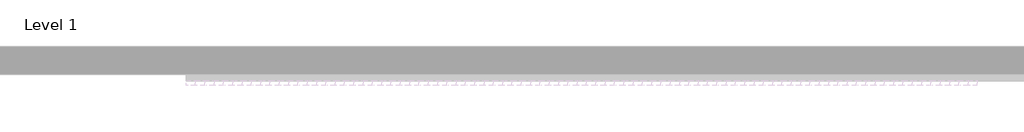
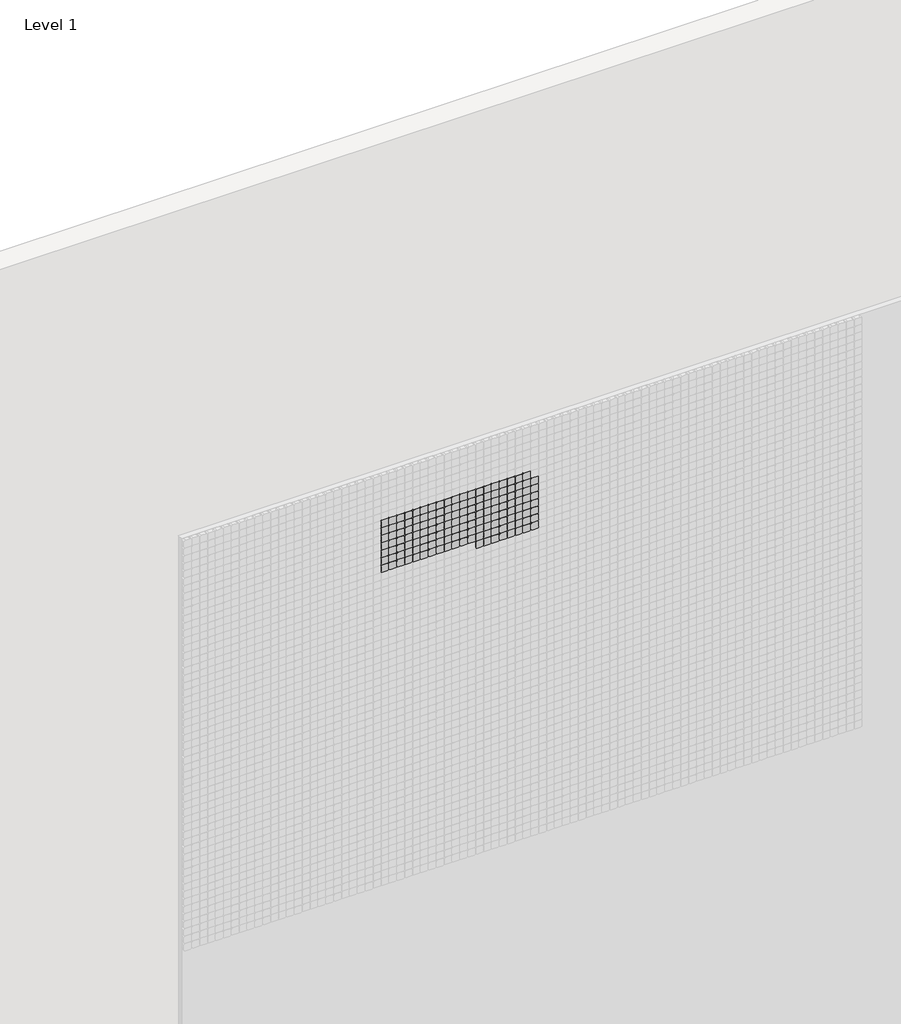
# One storey, part 22 of 71: 147 proxies.
"""IFC4 building model written with IfcOpenShell, lengths in millimetres."""

from ifc_helpers import new_model, si_unit, origin, place, context, project, spatial, transform, mapped, element, save
from components import generic_models_afde289c

model = new_model("IFC4")

# Units and contexts
model_context = context("Model", 3, world=origin())
ifc_project = project(units=[si_unit("LENGTHUNIT", "METRE", prefix="MILLI")], contexts=[model_context])

# Site, building, storey
site = spatial("IfcSite", under=ifc_project)
building = spatial("IfcBuilding", under=site)
storey = spatial("IfcBuildingStorey", under=building, Name="Level 1", Elevation=0.0)

# Proxies
placement = place(None, origin())
generic_models_shape = generic_models_afde289c(model_context)
element("IfcBuildingElementProxy", 1, Name="Pixel_M : Pixel_M", ObjectType="Pixel_M : Pixel_M", at=placement, inside=storey, context=model_context, shape_type="MappedRepresentation", body=[
    mapped(generic_models_shape, transform((6912.4280941, -75.0, 5666.3566215), x_axis=(1.0, 0.0, 0.0), y_axis=(0.0, 0.0, 1.0), z_axis=(0.0, -1.0, 0.0))),
])
element("IfcBuildingElementProxy", 2, Name="Pixel_M : Pixel_M", ObjectType="Pixel_M : Pixel_M", at=placement, inside=storey, context=model_context, shape_type="MappedRepresentation", body=[
    mapped(generic_models_shape, transform((6862.4280941, -75.0, 5666.3566215), x_axis=(1.0, 0.0, 0.0), y_axis=(0.0, 0.0, 1.0), z_axis=(0.0, -1.0, 0.0))),
])
element("IfcBuildingElementProxy", 3, Name="Pixel_M : Pixel_M", ObjectType="Pixel_M : Pixel_M", at=placement, inside=storey, context=model_context, shape_type="MappedRepresentation", body=[
    mapped(generic_models_shape, transform((6812.4280941, -75.0, 5666.3566215), x_axis=(1.0, 0.0, 0.0), y_axis=(0.0, 0.0, 1.0), z_axis=(0.0, -1.0, 0.0))),
])
element("IfcBuildingElementProxy", 4, Name="Pixel_M : Pixel_M", ObjectType="Pixel_M : Pixel_M", at=placement, inside=storey, context=model_context, shape_type="MappedRepresentation", body=[
    mapped(generic_models_shape, transform((6762.4280941, -75.0, 5666.3566215), x_axis=(1.0, 0.0, 0.0), y_axis=(0.0, 0.0, 1.0), z_axis=(0.0, -1.0, 0.0))),
])
element("IfcBuildingElementProxy", 5, Name="Pixel_M : Pixel_M", ObjectType="Pixel_M : Pixel_M", at=placement, inside=storey, context=model_context, shape_type="MappedRepresentation", body=[
    mapped(generic_models_shape, transform((6712.4280941, -75.0, 5666.3566215), x_axis=(1.0, 0.0, 0.0), y_axis=(0.0, 0.0, 1.0), z_axis=(0.0, -1.0, 0.0))),
])
element("IfcBuildingElementProxy", 6, Name="Pixel_M : Pixel_M", ObjectType="Pixel_M : Pixel_M", at=placement, inside=storey, context=model_context, shape_type="MappedRepresentation", body=[
    mapped(generic_models_shape, transform((6662.4280941, -75.0, 5666.3566215), x_axis=(1.0, 0.0, 0.0), y_axis=(0.0, 0.0, 1.0), z_axis=(0.0, -1.0, 0.0))),
])
element("IfcBuildingElementProxy", 7, Name="Pixel_M : Pixel_M", ObjectType="Pixel_M : Pixel_M", at=placement, inside=storey, context=model_context, shape_type="MappedRepresentation", body=[
    mapped(generic_models_shape, transform((6612.4280941, -75.0, 5666.3566215), x_axis=(1.0, 0.0, 0.0), y_axis=(0.0, 0.0, 1.0), z_axis=(0.0, -1.0, 0.0))),
])
element("IfcBuildingElementProxy", 8, Name="Pixel_M : Pixel_M", ObjectType="Pixel_M : Pixel_M", at=placement, inside=storey, context=model_context, shape_type="MappedRepresentation", body=[
    mapped(generic_models_shape, transform((6562.4280941, -75.0, 5666.3566215), x_axis=(1.0, 0.0, 0.0), y_axis=(0.0, 0.0, 1.0), z_axis=(0.0, -1.0, 0.0))),
])
element("IfcBuildingElementProxy", 9, Name="Pixel_M : Pixel_M", ObjectType="Pixel_M : Pixel_M", at=placement, inside=storey, context=model_context, shape_type="MappedRepresentation", body=[
    mapped(generic_models_shape, transform((6512.4280941, -75.0, 5666.3566215), x_axis=(1.0, 0.0, 0.0), y_axis=(0.0, 0.0, 1.0), z_axis=(0.0, -1.0, 0.0))),
])
element("IfcBuildingElementProxy", 10, Name="Pixel_M : Pixel_M", ObjectType="Pixel_M : Pixel_M", at=placement, inside=storey, context=model_context, shape_type="MappedRepresentation", body=[
    mapped(generic_models_shape, transform((6462.4280941, -75.0, 5666.3566215), x_axis=(1.0, 0.0, 0.0), y_axis=(0.0, 0.0, 1.0), z_axis=(0.0, -1.0, 0.0))),
])
element("IfcBuildingElementProxy", 11, Name="Pixel_M : Pixel_M", ObjectType="Pixel_M : Pixel_M", at=placement, inside=storey, context=model_context, shape_type="MappedRepresentation", body=[
    mapped(generic_models_shape, transform((6412.4280941, -75.0, 5666.3566215), x_axis=(1.0, 0.0, 0.0), y_axis=(0.0, 0.0, 1.0), z_axis=(0.0, -1.0, 0.0))),
])
element("IfcBuildingElementProxy", 12, Name="Pixel_M : Pixel_M", ObjectType="Pixel_M : Pixel_M", at=placement, inside=storey, context=model_context, shape_type="MappedRepresentation", body=[
    mapped(generic_models_shape, transform((6362.4280941, -75.0, 5666.3566215), x_axis=(1.0, 0.0, 0.0), y_axis=(0.0, 0.0, 1.0), z_axis=(0.0, -1.0, 0.0))),
])
element("IfcBuildingElementProxy", 13, Name="Pixel_M : Pixel_M", ObjectType="Pixel_M : Pixel_M", at=placement, inside=storey, context=model_context, shape_type="MappedRepresentation", body=[
    mapped(generic_models_shape, transform((6312.4280941, -75.0, 5666.3566215), x_axis=(1.0, 0.0, 0.0), y_axis=(0.0, 0.0, 1.0), z_axis=(0.0, -1.0, 0.0))),
])
element("IfcBuildingElementProxy", 14, Name="Pixel_M : Pixel_M", ObjectType="Pixel_M : Pixel_M", at=placement, inside=storey, context=model_context, shape_type="MappedRepresentation", body=[
    mapped(generic_models_shape, transform((6262.4280941, -75.0, 5666.3566215), x_axis=(1.0, 0.0, 0.0), y_axis=(0.0, 0.0, 1.0), z_axis=(0.0, -1.0, 0.0))),
])
element("IfcBuildingElementProxy", 15, Name="Pixel_M : Pixel_M", ObjectType="Pixel_M : Pixel_M", at=placement, inside=storey, context=model_context, shape_type="MappedRepresentation", body=[
    mapped(generic_models_shape, transform((6212.4280941, -75.0, 5666.3566215), x_axis=(1.0, 0.0, 0.0), y_axis=(0.0, 0.0, 1.0), z_axis=(0.0, -1.0, 0.0))),
])
element("IfcBuildingElementProxy", 16, Name="Pixel_M : Pixel_M", ObjectType="Pixel_M : Pixel_M", at=placement, inside=storey, context=model_context, shape_type="MappedRepresentation", body=[
    mapped(generic_models_shape, transform((6162.4280941, -75.0, 5666.3566215), x_axis=(1.0, 0.0, 0.0), y_axis=(0.0, 0.0, 1.0), z_axis=(0.0, -1.0, 0.0))),
])
element("IfcBuildingElementProxy", 17, Name="Pixel_M : Pixel_M", ObjectType="Pixel_M : Pixel_M", at=placement, inside=storey, context=model_context, shape_type="MappedRepresentation", body=[
    mapped(generic_models_shape, transform((6112.4280941, -75.0, 5666.3566215), x_axis=(1.0, 0.0, 0.0), y_axis=(0.0, 0.0, 1.0), z_axis=(0.0, -1.0, 0.0))),
])
element("IfcBuildingElementProxy", 18, Name="Pixel_M : Pixel_M", ObjectType="Pixel_M : Pixel_M", at=placement, inside=storey, context=model_context, shape_type="MappedRepresentation", body=[
    mapped(generic_models_shape, transform((6062.4280941, -75.0, 5666.3566215), x_axis=(1.0, 0.0, 0.0), y_axis=(0.0, 0.0, 1.0), z_axis=(0.0, -1.0, 0.0))),
])
element("IfcBuildingElementProxy", 19, Name="Pixel_M : Pixel_M", ObjectType="Pixel_M : Pixel_M", at=placement, inside=storey, context=model_context, shape_type="MappedRepresentation", body=[
    mapped(generic_models_shape, transform((6012.4280941, -75.0, 5666.3566215), x_axis=(1.0, 0.0, 0.0), y_axis=(0.0, 0.0, 1.0), z_axis=(0.0, -1.0, 0.0))),
])
element("IfcBuildingElementProxy", 20, Name="Pixel_M : Pixel_M", ObjectType="Pixel_M : Pixel_M", at=placement, inside=storey, context=model_context, shape_type="MappedRepresentation", body=[
    mapped(generic_models_shape, transform((6962.4280941, -75.0, 5616.3566215), x_axis=(1.0, 0.0, 0.0), y_axis=(0.0, 0.0, 1.0), z_axis=(0.0, -1.0, 0.0))),
])
element("IfcBuildingElementProxy", 21, Name="Pixel_M : Pixel_M", ObjectType="Pixel_M : Pixel_M", at=placement, inside=storey, context=model_context, shape_type="MappedRepresentation", body=[
    mapped(generic_models_shape, transform((6912.4280941, -75.0, 5616.3566215), x_axis=(1.0, 0.0, 0.0), y_axis=(0.0, 0.0, 1.0), z_axis=(0.0, -1.0, 0.0))),
])
element("IfcBuildingElementProxy", 22, Name="Pixel_M : Pixel_M", ObjectType="Pixel_M : Pixel_M", at=placement, inside=storey, context=model_context, shape_type="MappedRepresentation", body=[
    mapped(generic_models_shape, transform((6862.4280941, -75.0, 5616.3566215), x_axis=(1.0, 0.0, 0.0), y_axis=(0.0, 0.0, 1.0), z_axis=(0.0, -1.0, 0.0))),
])
element("IfcBuildingElementProxy", 23, Name="Pixel_M : Pixel_M", ObjectType="Pixel_M : Pixel_M", at=placement, inside=storey, context=model_context, shape_type="MappedRepresentation", body=[
    mapped(generic_models_shape, transform((6812.4280941, -75.0, 5616.3566215), x_axis=(1.0, 0.0, 0.0), y_axis=(0.0, 0.0, 1.0), z_axis=(0.0, -1.0, 0.0))),
])
element("IfcBuildingElementProxy", 24, Name="Pixel_M : Pixel_M", ObjectType="Pixel_M : Pixel_M", at=placement, inside=storey, context=model_context, shape_type="MappedRepresentation", body=[
    mapped(generic_models_shape, transform((6762.4280941, -75.0, 5616.3566215), x_axis=(1.0, 0.0, 0.0), y_axis=(0.0, 0.0, 1.0), z_axis=(0.0, -1.0, 0.0))),
])
element("IfcBuildingElementProxy", 25, Name="Pixel_M : Pixel_M", ObjectType="Pixel_M : Pixel_M", at=placement, inside=storey, context=model_context, shape_type="MappedRepresentation", body=[
    mapped(generic_models_shape, transform((6712.4280941, -75.0, 5616.3566215), x_axis=(1.0, 0.0, 0.0), y_axis=(0.0, 0.0, 1.0), z_axis=(0.0, -1.0, 0.0))),
])
element("IfcBuildingElementProxy", 26, Name="Pixel_M : Pixel_M", ObjectType="Pixel_M : Pixel_M", at=placement, inside=storey, context=model_context, shape_type="MappedRepresentation", body=[
    mapped(generic_models_shape, transform((6662.4280941, -75.0, 5616.3566215), x_axis=(1.0, 0.0, 0.0), y_axis=(0.0, 0.0, 1.0), z_axis=(0.0, -1.0, 0.0))),
])
element("IfcBuildingElementProxy", 27, Name="Pixel_M : Pixel_M", ObjectType="Pixel_M : Pixel_M", at=placement, inside=storey, context=model_context, shape_type="MappedRepresentation", body=[
    mapped(generic_models_shape, transform((6612.4280941, -75.0, 5616.3566215), x_axis=(1.0, 0.0, 0.0), y_axis=(0.0, 0.0, 1.0), z_axis=(0.0, -1.0, 0.0))),
])
element("IfcBuildingElementProxy", 28, Name="Pixel_M : Pixel_M", ObjectType="Pixel_M : Pixel_M", at=placement, inside=storey, context=model_context, shape_type="MappedRepresentation", body=[
    mapped(generic_models_shape, transform((6562.4280941, -75.0, 5616.3566215), x_axis=(1.0, 0.0, 0.0), y_axis=(0.0, 0.0, 1.0), z_axis=(0.0, -1.0, 0.0))),
])
element("IfcBuildingElementProxy", 29, Name="Pixel_M : Pixel_M", ObjectType="Pixel_M : Pixel_M", at=placement, inside=storey, context=model_context, shape_type="MappedRepresentation", body=[
    mapped(generic_models_shape, transform((6512.4280941, -75.0, 5616.3566215), x_axis=(1.0, 0.0, 0.0), y_axis=(0.0, 0.0, 1.0), z_axis=(0.0, -1.0, 0.0))),
])
element("IfcBuildingElementProxy", 30, Name="Pixel_M : Pixel_M", ObjectType="Pixel_M : Pixel_M", at=placement, inside=storey, context=model_context, shape_type="MappedRepresentation", body=[
    mapped(generic_models_shape, transform((6462.4280941, -75.0, 5616.3566215), x_axis=(1.0, 0.0, 0.0), y_axis=(0.0, 0.0, 1.0), z_axis=(0.0, -1.0, 0.0))),
])
element("IfcBuildingElementProxy", 31, Name="Pixel_M : Pixel_M", ObjectType="Pixel_M : Pixel_M", at=placement, inside=storey, context=model_context, shape_type="MappedRepresentation", body=[
    mapped(generic_models_shape, transform((6412.4280941, -75.0, 5616.3566215), x_axis=(1.0, 0.0, 0.0), y_axis=(0.0, 0.0, 1.0), z_axis=(0.0, -1.0, 0.0))),
])
element("IfcBuildingElementProxy", 32, Name="Pixel_M : Pixel_M", ObjectType="Pixel_M : Pixel_M", at=placement, inside=storey, context=model_context, shape_type="MappedRepresentation", body=[
    mapped(generic_models_shape, transform((6362.4280941, -75.0, 5616.3566215), x_axis=(1.0, 0.0, 0.0), y_axis=(0.0, 0.0, 1.0), z_axis=(0.0, -1.0, 0.0))),
])
element("IfcBuildingElementProxy", 33, Name="Pixel_M : Pixel_M", ObjectType="Pixel_M : Pixel_M", at=placement, inside=storey, context=model_context, shape_type="MappedRepresentation", body=[
    mapped(generic_models_shape, transform((6312.4280941, -75.0, 5616.3566215), x_axis=(1.0, 0.0, 0.0), y_axis=(0.0, 0.0, 1.0), z_axis=(0.0, -1.0, 0.0))),
])
element("IfcBuildingElementProxy", 34, Name="Pixel_M : Pixel_M", ObjectType="Pixel_M : Pixel_M", at=placement, inside=storey, context=model_context, shape_type="MappedRepresentation", body=[
    mapped(generic_models_shape, transform((6262.4280941, -75.0, 5616.3566215), x_axis=(1.0, 0.0, 0.0), y_axis=(0.0, 0.0, 1.0), z_axis=(0.0, -1.0, 0.0))),
])
element("IfcBuildingElementProxy", 35, Name="Pixel_M : Pixel_M", ObjectType="Pixel_M : Pixel_M", at=placement, inside=storey, context=model_context, shape_type="MappedRepresentation", body=[
    mapped(generic_models_shape, transform((6212.4280941, -75.0, 5616.3566215), x_axis=(1.0, 0.0, 0.0), y_axis=(0.0, 0.0, 1.0), z_axis=(0.0, -1.0, 0.0))),
])
element("IfcBuildingElementProxy", 36, Name="Pixel_M : Pixel_M", ObjectType="Pixel_M : Pixel_M", at=placement, inside=storey, context=model_context, shape_type="MappedRepresentation", body=[
    mapped(generic_models_shape, transform((6162.4280941, -75.0, 5616.3566215), x_axis=(1.0, 0.0, 0.0), y_axis=(0.0, 0.0, 1.0), z_axis=(0.0, -1.0, 0.0))),
])
element("IfcBuildingElementProxy", 37, Name="Pixel_M : Pixel_M", ObjectType="Pixel_M : Pixel_M", at=placement, inside=storey, context=model_context, shape_type="MappedRepresentation", body=[
    mapped(generic_models_shape, transform((6112.4280941, -75.0, 5616.3566215), x_axis=(1.0, 0.0, 0.0), y_axis=(0.0, 0.0, 1.0), z_axis=(0.0, -1.0, 0.0))),
])
element("IfcBuildingElementProxy", 38, Name="Pixel_M : Pixel_M", ObjectType="Pixel_M : Pixel_M", at=placement, inside=storey, context=model_context, shape_type="MappedRepresentation", body=[
    mapped(generic_models_shape, transform((6062.4280941, -75.0, 5616.3566215), x_axis=(1.0, 0.0, 0.0), y_axis=(0.0, 0.0, 1.0), z_axis=(0.0, -1.0, 0.0))),
])
element("IfcBuildingElementProxy", 39, Name="Pixel_M : Pixel_M", ObjectType="Pixel_M : Pixel_M", at=placement, inside=storey, context=model_context, shape_type="MappedRepresentation", body=[
    mapped(generic_models_shape, transform((6012.4280941, -75.0, 5616.3566215), x_axis=(1.0, 0.0, 0.0), y_axis=(0.0, 0.0, 1.0), z_axis=(0.0, -1.0, 0.0))),
])
element("IfcBuildingElementProxy", 40, Name="Pixel_M : Pixel_M", ObjectType="Pixel_M : Pixel_M", at=placement, inside=storey, context=model_context, shape_type="MappedRepresentation", body=[
    mapped(generic_models_shape, transform((6962.4280941, -75.0, 5566.3566215), x_axis=(1.0, 0.0, 0.0), y_axis=(0.0, 0.0, 1.0), z_axis=(0.0, -1.0, 0.0))),
])
element("IfcBuildingElementProxy", 41, Name="Pixel_M : Pixel_M", ObjectType="Pixel_M : Pixel_M", at=placement, inside=storey, context=model_context, shape_type="MappedRepresentation", body=[
    mapped(generic_models_shape, transform((6912.4280941, -75.0, 5566.3566215), x_axis=(1.0, 0.0, 0.0), y_axis=(0.0, 0.0, 1.0), z_axis=(0.0, -1.0, 0.0))),
])
element("IfcBuildingElementProxy", 42, Name="Pixel_M : Pixel_M", ObjectType="Pixel_M : Pixel_M", at=placement, inside=storey, context=model_context, shape_type="MappedRepresentation", body=[
    mapped(generic_models_shape, transform((6862.4280941, -75.0, 5566.3566215), x_axis=(1.0, 0.0, 0.0), y_axis=(0.0, 0.0, 1.0), z_axis=(0.0, -1.0, 0.0))),
])
element("IfcBuildingElementProxy", 43, Name="Pixel_M : Pixel_M", ObjectType="Pixel_M : Pixel_M", at=placement, inside=storey, context=model_context, shape_type="MappedRepresentation", body=[
    mapped(generic_models_shape, transform((6812.4280941, -75.0, 5566.3566215), x_axis=(1.0, 0.0, 0.0), y_axis=(0.0, 0.0, 1.0), z_axis=(0.0, -1.0, 0.0))),
])
element("IfcBuildingElementProxy", 44, Name="Pixel_M : Pixel_M", ObjectType="Pixel_M : Pixel_M", at=placement, inside=storey, context=model_context, shape_type="MappedRepresentation", body=[
    mapped(generic_models_shape, transform((6762.4280941, -75.0, 5566.3566215), x_axis=(1.0, 0.0, 0.0), y_axis=(0.0, 0.0, 1.0), z_axis=(0.0, -1.0, 0.0))),
])
element("IfcBuildingElementProxy", 45, Name="Pixel_M : Pixel_M", ObjectType="Pixel_M : Pixel_M", at=placement, inside=storey, context=model_context, shape_type="MappedRepresentation", body=[
    mapped(generic_models_shape, transform((6712.4280941, -75.0, 5566.3566215), x_axis=(1.0, 0.0, 0.0), y_axis=(0.0, 0.0, 1.0), z_axis=(0.0, -1.0, 0.0))),
])
element("IfcBuildingElementProxy", 46, Name="Pixel_M : Pixel_M", ObjectType="Pixel_M : Pixel_M", at=placement, inside=storey, context=model_context, shape_type="MappedRepresentation", body=[
    mapped(generic_models_shape, transform((6662.4280941, -75.0, 5566.3566215), x_axis=(1.0, 0.0, 0.0), y_axis=(0.0, 0.0, 1.0), z_axis=(0.0, -1.0, 0.0))),
])
element("IfcBuildingElementProxy", 47, Name="Pixel_M : Pixel_M", ObjectType="Pixel_M : Pixel_M", at=placement, inside=storey, context=model_context, shape_type="MappedRepresentation", body=[
    mapped(generic_models_shape, transform((6612.4280941, -75.0, 5566.3566215), x_axis=(1.0, 0.0, 0.0), y_axis=(0.0, 0.0, 1.0), z_axis=(0.0, -1.0, 0.0))),
])
element("IfcBuildingElementProxy", 48, Name="Pixel_M : Pixel_M", ObjectType="Pixel_M : Pixel_M", at=placement, inside=storey, context=model_context, shape_type="MappedRepresentation", body=[
    mapped(generic_models_shape, transform((6562.4280941, -75.0, 5566.3566215), x_axis=(1.0, 0.0, 0.0), y_axis=(0.0, 0.0, 1.0), z_axis=(0.0, -1.0, 0.0))),
])
element("IfcBuildingElementProxy", 49, Name="Pixel_M : Pixel_M", ObjectType="Pixel_M : Pixel_M", at=placement, inside=storey, context=model_context, shape_type="MappedRepresentation", body=[
    mapped(generic_models_shape, transform((6512.4280941, -75.0, 5566.3566215), x_axis=(1.0, 0.0, 0.0), y_axis=(0.0, 0.0, 1.0), z_axis=(0.0, -1.0, 0.0))),
])
element("IfcBuildingElementProxy", 50, Name="Pixel_M : Pixel_M", ObjectType="Pixel_M : Pixel_M", at=placement, inside=storey, context=model_context, shape_type="MappedRepresentation", body=[
    mapped(generic_models_shape, transform((6462.4280941, -75.0, 5566.3566215), x_axis=(1.0, 0.0, 0.0), y_axis=(0.0, 0.0, 1.0), z_axis=(0.0, -1.0, 0.0))),
])
element("IfcBuildingElementProxy", 51, Name="Pixel_M : Pixel_M", ObjectType="Pixel_M : Pixel_M", at=placement, inside=storey, context=model_context, shape_type="MappedRepresentation", body=[
    mapped(generic_models_shape, transform((6412.4280941, -75.0, 5566.3566215), x_axis=(1.0, 0.0, 0.0), y_axis=(0.0, 0.0, 1.0), z_axis=(0.0, -1.0, 0.0))),
])
element("IfcBuildingElementProxy", 52, Name="Pixel_M : Pixel_M", ObjectType="Pixel_M : Pixel_M", at=placement, inside=storey, context=model_context, shape_type="MappedRepresentation", body=[
    mapped(generic_models_shape, transform((6362.4280941, -75.0, 5566.3566215), x_axis=(1.0, 0.0, 0.0), y_axis=(0.0, 0.0, 1.0), z_axis=(0.0, -1.0, 0.0))),
])
element("IfcBuildingElementProxy", 53, Name="Pixel_M : Pixel_M", ObjectType="Pixel_M : Pixel_M", at=placement, inside=storey, context=model_context, shape_type="MappedRepresentation", body=[
    mapped(generic_models_shape, transform((6312.4280941, -75.0, 5566.3566215), x_axis=(1.0, 0.0, 0.0), y_axis=(0.0, 0.0, 1.0), z_axis=(0.0, -1.0, 0.0))),
])
element("IfcBuildingElementProxy", 54, Name="Pixel_M : Pixel_M", ObjectType="Pixel_M : Pixel_M", at=placement, inside=storey, context=model_context, shape_type="MappedRepresentation", body=[
    mapped(generic_models_shape, transform((6262.4280941, -75.0, 5566.3566215), x_axis=(1.0, 0.0, 0.0), y_axis=(0.0, 0.0, 1.0), z_axis=(0.0, -1.0, 0.0))),
])
element("IfcBuildingElementProxy", 55, Name="Pixel_M : Pixel_M", ObjectType="Pixel_M : Pixel_M", at=placement, inside=storey, context=model_context, shape_type="MappedRepresentation", body=[
    mapped(generic_models_shape, transform((6212.4280941, -75.0, 5566.3566215), x_axis=(1.0, 0.0, 0.0), y_axis=(0.0, 0.0, 1.0), z_axis=(0.0, -1.0, 0.0))),
])
element("IfcBuildingElementProxy", 56, Name="Pixel_M : Pixel_M", ObjectType="Pixel_M : Pixel_M", at=placement, inside=storey, context=model_context, shape_type="MappedRepresentation", body=[
    mapped(generic_models_shape, transform((6162.4280941, -75.0, 5566.3566215), x_axis=(1.0, 0.0, 0.0), y_axis=(0.0, 0.0, 1.0), z_axis=(0.0, -1.0, 0.0))),
])
element("IfcBuildingElementProxy", 57, Name="Pixel_M : Pixel_M", ObjectType="Pixel_M : Pixel_M", at=placement, inside=storey, context=model_context, shape_type="MappedRepresentation", body=[
    mapped(generic_models_shape, transform((6112.4280941, -75.0, 5566.3566215), x_axis=(1.0, 0.0, 0.0), y_axis=(0.0, 0.0, 1.0), z_axis=(0.0, -1.0, 0.0))),
])
element("IfcBuildingElementProxy", 58, Name="Pixel_M : Pixel_M", ObjectType="Pixel_M : Pixel_M", at=placement, inside=storey, context=model_context, shape_type="MappedRepresentation", body=[
    mapped(generic_models_shape, transform((6062.4280941, -75.0, 5566.3566215), x_axis=(1.0, 0.0, 0.0), y_axis=(0.0, 0.0, 1.0), z_axis=(0.0, -1.0, 0.0))),
])
element("IfcBuildingElementProxy", 59, Name="Pixel_M : Pixel_M", ObjectType="Pixel_M : Pixel_M", at=placement, inside=storey, context=model_context, shape_type="MappedRepresentation", body=[
    mapped(generic_models_shape, transform((6012.4280941, -75.0, 5566.3566215), x_axis=(1.0, 0.0, 0.0), y_axis=(0.0, 0.0, 1.0), z_axis=(0.0, -1.0, 0.0))),
])
element("IfcBuildingElementProxy", 60, Name="Pixel_M : Pixel_M", ObjectType="Pixel_M : Pixel_M", at=placement, inside=storey, context=model_context, shape_type="MappedRepresentation", body=[
    mapped(generic_models_shape, transform((6962.4280941, -75.0, 5516.3566215), x_axis=(1.0, 0.0, 0.0), y_axis=(0.0, 0.0, 1.0), z_axis=(0.0, -1.0, 0.0))),
])
element("IfcBuildingElementProxy", 61, Name="Pixel_M : Pixel_M", ObjectType="Pixel_M : Pixel_M", at=placement, inside=storey, context=model_context, shape_type="MappedRepresentation", body=[
    mapped(generic_models_shape, transform((6912.4280941, -75.0, 5516.3566215), x_axis=(1.0, 0.0, 0.0), y_axis=(0.0, 0.0, 1.0), z_axis=(0.0, -1.0, 0.0))),
])
element("IfcBuildingElementProxy", 62, Name="Pixel_M : Pixel_M", ObjectType="Pixel_M : Pixel_M", at=placement, inside=storey, context=model_context, shape_type="MappedRepresentation", body=[
    mapped(generic_models_shape, transform((6862.4280941, -75.0, 5516.3566215), x_axis=(1.0, 0.0, 0.0), y_axis=(0.0, 0.0, 1.0), z_axis=(0.0, -1.0, 0.0))),
])
element("IfcBuildingElementProxy", 63, Name="Pixel_M : Pixel_M", ObjectType="Pixel_M : Pixel_M", at=placement, inside=storey, context=model_context, shape_type="MappedRepresentation", body=[
    mapped(generic_models_shape, transform((6812.4280941, -75.0, 5516.3566215), x_axis=(1.0, 0.0, 0.0), y_axis=(0.0, 0.0, 1.0), z_axis=(0.0, -1.0, 0.0))),
])
element("IfcBuildingElementProxy", 64, Name="Pixel_M : Pixel_M", ObjectType="Pixel_M : Pixel_M", at=placement, inside=storey, context=model_context, shape_type="MappedRepresentation", body=[
    mapped(generic_models_shape, transform((6762.4280941, -75.0, 5516.3566215), x_axis=(1.0, 0.0, 0.0), y_axis=(0.0, 0.0, 1.0), z_axis=(0.0, -1.0, 0.0))),
])
element("IfcBuildingElementProxy", 65, Name="Pixel_M : Pixel_M", ObjectType="Pixel_M : Pixel_M", at=placement, inside=storey, context=model_context, shape_type="MappedRepresentation", body=[
    mapped(generic_models_shape, transform((6712.4280941, -75.0, 5516.3566215), x_axis=(1.0, 0.0, 0.0), y_axis=(0.0, 0.0, 1.0), z_axis=(0.0, -1.0, 0.0))),
])
element("IfcBuildingElementProxy", 66, Name="Pixel_M : Pixel_M", ObjectType="Pixel_M : Pixel_M", at=placement, inside=storey, context=model_context, shape_type="MappedRepresentation", body=[
    mapped(generic_models_shape, transform((6662.4280941, -75.0, 5516.3566215), x_axis=(1.0, 0.0, 0.0), y_axis=(0.0, 0.0, 1.0), z_axis=(0.0, -1.0, 0.0))),
])
element("IfcBuildingElementProxy", 67, Name="Pixel_M : Pixel_M", ObjectType="Pixel_M : Pixel_M", at=placement, inside=storey, context=model_context, shape_type="MappedRepresentation", body=[
    mapped(generic_models_shape, transform((6612.4280941, -75.0, 5516.3566215), x_axis=(1.0, 0.0, 0.0), y_axis=(0.0, 0.0, 1.0), z_axis=(0.0, -1.0, 0.0))),
])
element("IfcBuildingElementProxy", 68, Name="Pixel_M : Pixel_M", ObjectType="Pixel_M : Pixel_M", at=placement, inside=storey, context=model_context, shape_type="MappedRepresentation", body=[
    mapped(generic_models_shape, transform((6562.4280941, -75.0, 5516.3566215), x_axis=(1.0, 0.0, 0.0), y_axis=(0.0, 0.0, 1.0), z_axis=(0.0, -1.0, 0.0))),
])
element("IfcBuildingElementProxy", 69, Name="Pixel_M : Pixel_M", ObjectType="Pixel_M : Pixel_M", at=placement, inside=storey, context=model_context, shape_type="MappedRepresentation", body=[
    mapped(generic_models_shape, transform((6512.4280941, -75.0, 5516.3566215), x_axis=(1.0, 0.0, 0.0), y_axis=(0.0, 0.0, 1.0), z_axis=(0.0, -1.0, 0.0))),
])
element("IfcBuildingElementProxy", 70, Name="Pixel_M : Pixel_M", ObjectType="Pixel_M : Pixel_M", at=placement, inside=storey, context=model_context, shape_type="MappedRepresentation", body=[
    mapped(generic_models_shape, transform((6462.4280941, -75.0, 5516.3566215), x_axis=(1.0, 0.0, 0.0), y_axis=(0.0, 0.0, 1.0), z_axis=(0.0, -1.0, 0.0))),
])
element("IfcBuildingElementProxy", 71, Name="Pixel_M : Pixel_M", ObjectType="Pixel_M : Pixel_M", at=placement, inside=storey, context=model_context, shape_type="MappedRepresentation", body=[
    mapped(generic_models_shape, transform((6412.4280941, -75.0, 5516.3566215), x_axis=(1.0, 0.0, 0.0), y_axis=(0.0, 0.0, 1.0), z_axis=(0.0, -1.0, 0.0))),
])
element("IfcBuildingElementProxy", 72, Name="Pixel_M : Pixel_M", ObjectType="Pixel_M : Pixel_M", at=placement, inside=storey, context=model_context, shape_type="MappedRepresentation", body=[
    mapped(generic_models_shape, transform((6362.4280941, -75.0, 5516.3566215), x_axis=(1.0, 0.0, 0.0), y_axis=(0.0, 0.0, 1.0), z_axis=(0.0, -1.0, 0.0))),
])
element("IfcBuildingElementProxy", 73, Name="Pixel_M : Pixel_M", ObjectType="Pixel_M : Pixel_M", at=placement, inside=storey, context=model_context, shape_type="MappedRepresentation", body=[
    mapped(generic_models_shape, transform((6312.4280941, -75.0, 5516.3566215), x_axis=(1.0, 0.0, 0.0), y_axis=(0.0, 0.0, 1.0), z_axis=(0.0, -1.0, 0.0))),
])
element("IfcBuildingElementProxy", 74, Name="Pixel_M : Pixel_M", ObjectType="Pixel_M : Pixel_M", at=placement, inside=storey, context=model_context, shape_type="MappedRepresentation", body=[
    mapped(generic_models_shape, transform((6262.4280941, -75.0, 5516.3566215), x_axis=(1.0, 0.0, 0.0), y_axis=(0.0, 0.0, 1.0), z_axis=(0.0, -1.0, 0.0))),
])
element("IfcBuildingElementProxy", 75, Name="Pixel_M : Pixel_M", ObjectType="Pixel_M : Pixel_M", at=placement, inside=storey, context=model_context, shape_type="MappedRepresentation", body=[
    mapped(generic_models_shape, transform((6212.4280941, -75.0, 5516.3566215), x_axis=(1.0, 0.0, 0.0), y_axis=(0.0, 0.0, 1.0), z_axis=(0.0, -1.0, 0.0))),
])
element("IfcBuildingElementProxy", 76, Name="Pixel_M : Pixel_M", ObjectType="Pixel_M : Pixel_M", at=placement, inside=storey, context=model_context, shape_type="MappedRepresentation", body=[
    mapped(generic_models_shape, transform((6162.4280941, -75.0, 5516.3566215), x_axis=(1.0, 0.0, 0.0), y_axis=(0.0, 0.0, 1.0), z_axis=(0.0, -1.0, 0.0))),
])
element("IfcBuildingElementProxy", 77, Name="Pixel_M : Pixel_M", ObjectType="Pixel_M : Pixel_M", at=placement, inside=storey, context=model_context, shape_type="MappedRepresentation", body=[
    mapped(generic_models_shape, transform((6112.4280941, -75.0, 5516.3566215), x_axis=(1.0, 0.0, 0.0), y_axis=(0.0, 0.0, 1.0), z_axis=(0.0, -1.0, 0.0))),
])
element("IfcBuildingElementProxy", 78, Name="Pixel_M : Pixel_M", ObjectType="Pixel_M : Pixel_M", at=placement, inside=storey, context=model_context, shape_type="MappedRepresentation", body=[
    mapped(generic_models_shape, transform((6062.4280941, -75.0, 5516.3566215), x_axis=(1.0, 0.0, 0.0), y_axis=(0.0, 0.0, 1.0), z_axis=(0.0, -1.0, 0.0))),
])
element("IfcBuildingElementProxy", 79, Name="Pixel_M : Pixel_M", ObjectType="Pixel_M : Pixel_M", at=placement, inside=storey, context=model_context, shape_type="MappedRepresentation", body=[
    mapped(generic_models_shape, transform((6012.4280941, -75.0, 5516.3566215), x_axis=(1.0, 0.0, 0.0), y_axis=(0.0, 0.0, 1.0), z_axis=(0.0, -1.0, 0.0))),
])
element("IfcBuildingElementProxy", 80, Name="Pixel_M : Pixel_M", ObjectType="Pixel_M : Pixel_M", at=placement, inside=storey, context=model_context, shape_type="MappedRepresentation", body=[
    mapped(generic_models_shape, transform((6962.4280941, -75.0, 5466.3566215), x_axis=(1.0, 0.0, 0.0), y_axis=(0.0, 0.0, 1.0), z_axis=(0.0, -1.0, 0.0))),
])
element("IfcBuildingElementProxy", 81, Name="Pixel_M : Pixel_M", ObjectType="Pixel_M : Pixel_M", at=placement, inside=storey, context=model_context, shape_type="MappedRepresentation", body=[
    mapped(generic_models_shape, transform((6912.4280941, -75.0, 5466.3566215), x_axis=(1.0, 0.0, 0.0), y_axis=(0.0, 0.0, 1.0), z_axis=(0.0, -1.0, 0.0))),
])
element("IfcBuildingElementProxy", 82, Name="Pixel_M : Pixel_M", ObjectType="Pixel_M : Pixel_M", at=placement, inside=storey, context=model_context, shape_type="MappedRepresentation", body=[
    mapped(generic_models_shape, transform((6862.4280941, -75.0, 5466.3566215), x_axis=(1.0, 0.0, 0.0), y_axis=(0.0, 0.0, 1.0), z_axis=(0.0, -1.0, 0.0))),
])
element("IfcBuildingElementProxy", 83, Name="Pixel_M : Pixel_M", ObjectType="Pixel_M : Pixel_M", at=placement, inside=storey, context=model_context, shape_type="MappedRepresentation", body=[
    mapped(generic_models_shape, transform((6812.4280941, -75.0, 5466.3566215), x_axis=(1.0, 0.0, 0.0), y_axis=(0.0, 0.0, 1.0), z_axis=(0.0, -1.0, 0.0))),
])
element("IfcBuildingElementProxy", 84, Name="Pixel_M : Pixel_M", ObjectType="Pixel_M : Pixel_M", at=placement, inside=storey, context=model_context, shape_type="MappedRepresentation", body=[
    mapped(generic_models_shape, transform((6762.4280941, -75.0, 5466.3566215), x_axis=(1.0, 0.0, 0.0), y_axis=(0.0, 0.0, 1.0), z_axis=(0.0, -1.0, 0.0))),
])
element("IfcBuildingElementProxy", 85, Name="Pixel_M : Pixel_M", ObjectType="Pixel_M : Pixel_M", at=placement, inside=storey, context=model_context, shape_type="MappedRepresentation", body=[
    mapped(generic_models_shape, transform((6712.4280941, -75.0, 5466.3566215), x_axis=(1.0, 0.0, 0.0), y_axis=(0.0, 0.0, 1.0), z_axis=(0.0, -1.0, 0.0))),
])
element("IfcBuildingElementProxy", 86, Name="Pixel_M : Pixel_M", ObjectType="Pixel_M : Pixel_M", at=placement, inside=storey, context=model_context, shape_type="MappedRepresentation", body=[
    mapped(generic_models_shape, transform((6662.4280941, -75.0, 5466.3566215), x_axis=(1.0, 0.0, 0.0), y_axis=(0.0, 0.0, 1.0), z_axis=(0.0, -1.0, 0.0))),
])
element("IfcBuildingElementProxy", 87, Name="Pixel_M : Pixel_M", ObjectType="Pixel_M : Pixel_M", at=placement, inside=storey, context=model_context, shape_type="MappedRepresentation", body=[
    mapped(generic_models_shape, transform((6612.4280941, -75.0, 5466.3566215), x_axis=(1.0, 0.0, 0.0), y_axis=(0.0, 0.0, 1.0), z_axis=(0.0, -1.0, 0.0))),
])
element("IfcBuildingElementProxy", 88, Name="Pixel_M : Pixel_M", ObjectType="Pixel_M : Pixel_M", at=placement, inside=storey, context=model_context, shape_type="MappedRepresentation", body=[
    mapped(generic_models_shape, transform((6562.4280941, -75.0, 5466.3566215), x_axis=(1.0, 0.0, 0.0), y_axis=(0.0, 0.0, 1.0), z_axis=(0.0, -1.0, 0.0))),
])
element("IfcBuildingElementProxy", 89, Name="Pixel_M : Pixel_M", ObjectType="Pixel_M : Pixel_M", at=placement, inside=storey, context=model_context, shape_type="MappedRepresentation", body=[
    mapped(generic_models_shape, transform((6512.4280941, -75.0, 5466.3566215), x_axis=(1.0, 0.0, 0.0), y_axis=(0.0, 0.0, 1.0), z_axis=(0.0, -1.0, 0.0))),
])
element("IfcBuildingElementProxy", 90, Name="Pixel_M : Pixel_M", ObjectType="Pixel_M : Pixel_M", at=placement, inside=storey, context=model_context, shape_type="MappedRepresentation", body=[
    mapped(generic_models_shape, transform((6462.4280941, -75.0, 5466.3566215), x_axis=(1.0, 0.0, 0.0), y_axis=(0.0, 0.0, 1.0), z_axis=(0.0, -1.0, 0.0))),
])
element("IfcBuildingElementProxy", 91, Name="Pixel_M : Pixel_M", ObjectType="Pixel_M : Pixel_M", at=placement, inside=storey, context=model_context, shape_type="MappedRepresentation", body=[
    mapped(generic_models_shape, transform((6412.4280941, -75.0, 5466.3566215), x_axis=(1.0, 0.0, 0.0), y_axis=(0.0, 0.0, 1.0), z_axis=(0.0, -1.0, 0.0))),
])
element("IfcBuildingElementProxy", 92, Name="Pixel_M : Pixel_M", ObjectType="Pixel_M : Pixel_M", at=placement, inside=storey, context=model_context, shape_type="MappedRepresentation", body=[
    mapped(generic_models_shape, transform((6362.4280941, -75.0, 5466.3566215), x_axis=(1.0, 0.0, 0.0), y_axis=(0.0, 0.0, 1.0), z_axis=(0.0, -1.0, 0.0))),
])
element("IfcBuildingElementProxy", 93, Name="Pixel_M : Pixel_M", ObjectType="Pixel_M : Pixel_M", at=placement, inside=storey, context=model_context, shape_type="MappedRepresentation", body=[
    mapped(generic_models_shape, transform((6312.4280941, -75.0, 5466.3566215), x_axis=(1.0, 0.0, 0.0), y_axis=(0.0, 0.0, 1.0), z_axis=(0.0, -1.0, 0.0))),
])
element("IfcBuildingElementProxy", 94, Name="Pixel_M : Pixel_M", ObjectType="Pixel_M : Pixel_M", at=placement, inside=storey, context=model_context, shape_type="MappedRepresentation", body=[
    mapped(generic_models_shape, transform((6262.4280941, -75.0, 5466.3566215), x_axis=(1.0, 0.0, 0.0), y_axis=(0.0, 0.0, 1.0), z_axis=(0.0, -1.0, 0.0))),
])
element("IfcBuildingElementProxy", 95, Name="Pixel_M : Pixel_M", ObjectType="Pixel_M : Pixel_M", at=placement, inside=storey, context=model_context, shape_type="MappedRepresentation", body=[
    mapped(generic_models_shape, transform((6212.4280941, -75.0, 5466.3566215), x_axis=(1.0, 0.0, 0.0), y_axis=(0.0, 0.0, 1.0), z_axis=(0.0, -1.0, 0.0))),
])
element("IfcBuildingElementProxy", 96, Name="Pixel_M : Pixel_M", ObjectType="Pixel_M : Pixel_M", at=placement, inside=storey, context=model_context, shape_type="MappedRepresentation", body=[
    mapped(generic_models_shape, transform((6162.4280941, -75.0, 5466.3566215), x_axis=(1.0, 0.0, 0.0), y_axis=(0.0, 0.0, 1.0), z_axis=(0.0, -1.0, 0.0))),
])
element("IfcBuildingElementProxy", 97, Name="Pixel_M : Pixel_M", ObjectType="Pixel_M : Pixel_M", at=placement, inside=storey, context=model_context, shape_type="MappedRepresentation", body=[
    mapped(generic_models_shape, transform((6112.4280941, -75.0, 5466.3566215), x_axis=(1.0, 0.0, 0.0), y_axis=(0.0, 0.0, 1.0), z_axis=(0.0, -1.0, 0.0))),
])
element("IfcBuildingElementProxy", 98, Name="Pixel_M : Pixel_M", ObjectType="Pixel_M : Pixel_M", at=placement, inside=storey, context=model_context, shape_type="MappedRepresentation", body=[
    mapped(generic_models_shape, transform((6062.4280941, -75.0, 5466.3566215), x_axis=(1.0, 0.0, 0.0), y_axis=(0.0, 0.0, 1.0), z_axis=(0.0, -1.0, 0.0))),
])
element("IfcBuildingElementProxy", 99, Name="Pixel_M : Pixel_M", ObjectType="Pixel_M : Pixel_M", at=placement, inside=storey, context=model_context, shape_type="MappedRepresentation", body=[
    mapped(generic_models_shape, transform((6012.4280941, -75.0, 5466.3566215), x_axis=(1.0, 0.0, 0.0), y_axis=(0.0, 0.0, 1.0), z_axis=(0.0, -1.0, 0.0))),
])
element("IfcBuildingElementProxy", 100, Name="Pixel_M : Pixel_M", ObjectType="Pixel_M : Pixel_M", at=placement, inside=storey, context=model_context, shape_type="MappedRepresentation", body=[
    mapped(generic_models_shape, transform((6962.4280941, -75.0, 5416.3566215), x_axis=(1.0, 0.0, 0.0), y_axis=(0.0, 0.0, 1.0), z_axis=(0.0, -1.0, 0.0))),
])
element("IfcBuildingElementProxy", 101, Name="Pixel_M : Pixel_M", ObjectType="Pixel_M : Pixel_M", at=placement, inside=storey, context=model_context, shape_type="MappedRepresentation", body=[
    mapped(generic_models_shape, transform((6912.4280941, -75.0, 5416.3566215), x_axis=(1.0, 0.0, 0.0), y_axis=(0.0, 0.0, 1.0), z_axis=(0.0, -1.0, 0.0))),
])
element("IfcBuildingElementProxy", 102, Name="Pixel_M : Pixel_M", ObjectType="Pixel_M : Pixel_M", at=placement, inside=storey, context=model_context, shape_type="MappedRepresentation", body=[
    mapped(generic_models_shape, transform((6862.4280941, -75.0, 5416.3566215), x_axis=(1.0, 0.0, 0.0), y_axis=(0.0, 0.0, 1.0), z_axis=(0.0, -1.0, 0.0))),
])
element("IfcBuildingElementProxy", 103, Name="Pixel_M : Pixel_M", ObjectType="Pixel_M : Pixel_M", at=placement, inside=storey, context=model_context, shape_type="MappedRepresentation", body=[
    mapped(generic_models_shape, transform((6812.4280941, -75.0, 5416.3566215), x_axis=(1.0, 0.0, 0.0), y_axis=(0.0, 0.0, 1.0), z_axis=(0.0, -1.0, 0.0))),
])
element("IfcBuildingElementProxy", 104, Name="Pixel_M : Pixel_M", ObjectType="Pixel_M : Pixel_M", at=placement, inside=storey, context=model_context, shape_type="MappedRepresentation", body=[
    mapped(generic_models_shape, transform((6762.4280941, -75.0, 5416.3566215), x_axis=(1.0, 0.0, 0.0), y_axis=(0.0, 0.0, 1.0), z_axis=(0.0, -1.0, 0.0))),
])
element("IfcBuildingElementProxy", 105, Name="Pixel_M : Pixel_M", ObjectType="Pixel_M : Pixel_M", at=placement, inside=storey, context=model_context, shape_type="MappedRepresentation", body=[
    mapped(generic_models_shape, transform((6712.4280941, -75.0, 5416.3566215), x_axis=(1.0, 0.0, 0.0), y_axis=(0.0, 0.0, 1.0), z_axis=(0.0, -1.0, 0.0))),
])
element("IfcBuildingElementProxy", 106, Name="Pixel_M : Pixel_M", ObjectType="Pixel_M : Pixel_M", at=placement, inside=storey, context=model_context, shape_type="MappedRepresentation", body=[
    mapped(generic_models_shape, transform((6662.4280941, -75.0, 5416.3566215), x_axis=(1.0, 0.0, 0.0), y_axis=(0.0, 0.0, 1.0), z_axis=(0.0, -1.0, 0.0))),
])
element("IfcBuildingElementProxy", 107, Name="Pixel_M : Pixel_M", ObjectType="Pixel_M : Pixel_M", at=placement, inside=storey, context=model_context, shape_type="MappedRepresentation", body=[
    mapped(generic_models_shape, transform((6612.4280941, -75.0, 5416.3566215), x_axis=(1.0, 0.0, 0.0), y_axis=(0.0, 0.0, 1.0), z_axis=(0.0, -1.0, 0.0))),
])
element("IfcBuildingElementProxy", 108, Name="Pixel_M : Pixel_M", ObjectType="Pixel_M : Pixel_M", at=placement, inside=storey, context=model_context, shape_type="MappedRepresentation", body=[
    mapped(generic_models_shape, transform((6562.4280941, -75.0, 5416.3566215), x_axis=(1.0, 0.0, 0.0), y_axis=(0.0, 0.0, 1.0), z_axis=(0.0, -1.0, 0.0))),
])
element("IfcBuildingElementProxy", 109, Name="Pixel_M : Pixel_M", ObjectType="Pixel_M : Pixel_M", at=placement, inside=storey, context=model_context, shape_type="MappedRepresentation", body=[
    mapped(generic_models_shape, transform((6512.4280941, -75.0, 5416.3566215), x_axis=(1.0, 0.0, 0.0), y_axis=(0.0, 0.0, 1.0), z_axis=(0.0, -1.0, 0.0))),
])
element("IfcBuildingElementProxy", 110, Name="Pixel_M : Pixel_M", ObjectType="Pixel_M : Pixel_M", at=placement, inside=storey, context=model_context, shape_type="MappedRepresentation", body=[
    mapped(generic_models_shape, transform((6462.4280941, -75.0, 5416.3566215), x_axis=(1.0, 0.0, 0.0), y_axis=(0.0, 0.0, 1.0), z_axis=(0.0, -1.0, 0.0))),
])
element("IfcBuildingElementProxy", 111, Name="Pixel_M : Pixel_M", ObjectType="Pixel_M : Pixel_M", at=placement, inside=storey, context=model_context, shape_type="MappedRepresentation", body=[
    mapped(generic_models_shape, transform((6412.4280941, -75.0, 5416.3566215), x_axis=(1.0, 0.0, 0.0), y_axis=(0.0, 0.0, 1.0), z_axis=(0.0, -1.0, 0.0))),
])
element("IfcBuildingElementProxy", 112, Name="Pixel_M : Pixel_M", ObjectType="Pixel_M : Pixel_M", at=placement, inside=storey, context=model_context, shape_type="MappedRepresentation", body=[
    mapped(generic_models_shape, transform((6362.4280941, -75.0, 5416.3566215), x_axis=(1.0, 0.0, 0.0), y_axis=(0.0, 0.0, 1.0), z_axis=(0.0, -1.0, 0.0))),
])
element("IfcBuildingElementProxy", 113, Name="Pixel_M : Pixel_M", ObjectType="Pixel_M : Pixel_M", at=placement, inside=storey, context=model_context, shape_type="MappedRepresentation", body=[
    mapped(generic_models_shape, transform((6312.4280941, -75.0, 5416.3566215), x_axis=(1.0, 0.0, 0.0), y_axis=(0.0, 0.0, 1.0), z_axis=(0.0, -1.0, 0.0))),
])
element("IfcBuildingElementProxy", 114, Name="Pixel_M : Pixel_M", ObjectType="Pixel_M : Pixel_M", at=placement, inside=storey, context=model_context, shape_type="MappedRepresentation", body=[
    mapped(generic_models_shape, transform((6262.4280941, -75.0, 5416.3566215), x_axis=(1.0, 0.0, 0.0), y_axis=(0.0, 0.0, 1.0), z_axis=(0.0, -1.0, 0.0))),
])
element("IfcBuildingElementProxy", 115, Name="Pixel_M : Pixel_M", ObjectType="Pixel_M : Pixel_M", at=placement, inside=storey, context=model_context, shape_type="MappedRepresentation", body=[
    mapped(generic_models_shape, transform((6212.4280941, -75.0, 5416.3566215), x_axis=(1.0, 0.0, 0.0), y_axis=(0.0, 0.0, 1.0), z_axis=(0.0, -1.0, 0.0))),
])
element("IfcBuildingElementProxy", 116, Name="Pixel_M : Pixel_M", ObjectType="Pixel_M : Pixel_M", at=placement, inside=storey, context=model_context, shape_type="MappedRepresentation", body=[
    mapped(generic_models_shape, transform((6162.4280941, -75.0, 5416.3566215), x_axis=(1.0, 0.0, 0.0), y_axis=(0.0, 0.0, 1.0), z_axis=(0.0, -1.0, 0.0))),
])
element("IfcBuildingElementProxy", 117, Name="Pixel_M : Pixel_M", ObjectType="Pixel_M : Pixel_M", at=placement, inside=storey, context=model_context, shape_type="MappedRepresentation", body=[
    mapped(generic_models_shape, transform((6112.4280941, -75.0, 5416.3566215), x_axis=(1.0, 0.0, 0.0), y_axis=(0.0, 0.0, 1.0), z_axis=(0.0, -1.0, 0.0))),
])
element("IfcBuildingElementProxy", 118, Name="Pixel_M : Pixel_M", ObjectType="Pixel_M : Pixel_M", at=placement, inside=storey, context=model_context, shape_type="MappedRepresentation", body=[
    mapped(generic_models_shape, transform((6062.4280941, -75.0, 5416.3566215), x_axis=(1.0, 0.0, 0.0), y_axis=(0.0, 0.0, 1.0), z_axis=(0.0, -1.0, 0.0))),
])
element("IfcBuildingElementProxy", 119, Name="Pixel_M : Pixel_M", ObjectType="Pixel_M : Pixel_M", at=placement, inside=storey, context=model_context, shape_type="MappedRepresentation", body=[
    mapped(generic_models_shape, transform((6012.4280941, -75.0, 5416.3566215), x_axis=(1.0, 0.0, 0.0), y_axis=(0.0, 0.0, 1.0), z_axis=(0.0, -1.0, 0.0))),
])
element("IfcBuildingElementProxy", 120, Name="Pixel_M : Pixel_M", ObjectType="Pixel_M : Pixel_M", at=placement, inside=storey, context=model_context, shape_type="MappedRepresentation", body=[
    mapped(generic_models_shape, transform((6962.4280941, -75.0, 5366.3566215), x_axis=(1.0, 0.0, 0.0), y_axis=(0.0, 0.0, 1.0), z_axis=(0.0, -1.0, 0.0))),
])
element("IfcBuildingElementProxy", 121, Name="Pixel_M : Pixel_M", ObjectType="Pixel_M : Pixel_M", at=placement, inside=storey, context=model_context, shape_type="MappedRepresentation", body=[
    mapped(generic_models_shape, transform((6912.4280941, -75.0, 5366.3566215), x_axis=(1.0, 0.0, 0.0), y_axis=(0.0, 0.0, 1.0), z_axis=(0.0, -1.0, 0.0))),
])
element("IfcBuildingElementProxy", 122, Name="Pixel_M : Pixel_M", ObjectType="Pixel_M : Pixel_M", at=placement, inside=storey, context=model_context, shape_type="MappedRepresentation", body=[
    mapped(generic_models_shape, transform((6862.4280941, -75.0, 5366.3566215), x_axis=(1.0, 0.0, 0.0), y_axis=(0.0, 0.0, 1.0), z_axis=(0.0, -1.0, 0.0))),
])
element("IfcBuildingElementProxy", 123, Name="Pixel_M : Pixel_M", ObjectType="Pixel_M : Pixel_M", at=placement, inside=storey, context=model_context, shape_type="MappedRepresentation", body=[
    mapped(generic_models_shape, transform((6812.4280941, -75.0, 5366.3566215), x_axis=(1.0, 0.0, 0.0), y_axis=(0.0, 0.0, 1.0), z_axis=(0.0, -1.0, 0.0))),
])
element("IfcBuildingElementProxy", 124, Name="Pixel_M : Pixel_M", ObjectType="Pixel_M : Pixel_M", at=placement, inside=storey, context=model_context, shape_type="MappedRepresentation", body=[
    mapped(generic_models_shape, transform((6762.4280941, -75.0, 5366.3566215), x_axis=(1.0, 0.0, 0.0), y_axis=(0.0, 0.0, 1.0), z_axis=(0.0, -1.0, 0.0))),
])
element("IfcBuildingElementProxy", 125, Name="Pixel_M : Pixel_M", ObjectType="Pixel_M : Pixel_M", at=placement, inside=storey, context=model_context, shape_type="MappedRepresentation", body=[
    mapped(generic_models_shape, transform((6712.4280941, -75.0, 5366.3566215), x_axis=(1.0, 0.0, 0.0), y_axis=(0.0, 0.0, 1.0), z_axis=(0.0, -1.0, 0.0))),
])
element("IfcBuildingElementProxy", 126, Name="Pixel_M : Pixel_M", ObjectType="Pixel_M : Pixel_M", at=placement, inside=storey, context=model_context, shape_type="MappedRepresentation", body=[
    mapped(generic_models_shape, transform((6662.4280941, -75.0, 5366.3566215), x_axis=(1.0, 0.0, 0.0), y_axis=(0.0, 0.0, 1.0), z_axis=(0.0, -1.0, 0.0))),
])
element("IfcBuildingElementProxy", 127, Name="Pixel_M : Pixel_M", ObjectType="Pixel_M : Pixel_M", at=placement, inside=storey, context=model_context, shape_type="MappedRepresentation", body=[
    mapped(generic_models_shape, transform((6612.4280941, -75.0, 5366.3566215), x_axis=(1.0, 0.0, 0.0), y_axis=(0.0, 0.0, 1.0), z_axis=(0.0, -1.0, 0.0))),
])
element("IfcBuildingElementProxy", 128, Name="Pixel_M : Pixel_M", ObjectType="Pixel_M : Pixel_M", at=placement, inside=storey, context=model_context, shape_type="MappedRepresentation", body=[
    mapped(generic_models_shape, transform((6562.4280941, -75.0, 5366.3566215), x_axis=(1.0, 0.0, 0.0), y_axis=(0.0, 0.0, 1.0), z_axis=(0.0, -1.0, 0.0))),
])
element("IfcBuildingElementProxy", 129, Name="Pixel_M : Pixel_M", ObjectType="Pixel_M : Pixel_M", at=placement, inside=storey, context=model_context, shape_type="MappedRepresentation", body=[
    mapped(generic_models_shape, transform((6512.4280941, -75.0, 5366.3566215), x_axis=(1.0, 0.0, 0.0), y_axis=(0.0, 0.0, 1.0), z_axis=(0.0, -1.0, 0.0))),
])
element("IfcBuildingElementProxy", 130, Name="Pixel_M : Pixel_M", ObjectType="Pixel_M : Pixel_M", at=placement, inside=storey, context=model_context, shape_type="MappedRepresentation", body=[
    mapped(generic_models_shape, transform((6462.4280941, -75.0, 5366.3566215), x_axis=(1.0, 0.0, 0.0), y_axis=(0.0, 0.0, 1.0), z_axis=(0.0, -1.0, 0.0))),
])
element("IfcBuildingElementProxy", 131, Name="Pixel_M : Pixel_M", ObjectType="Pixel_M : Pixel_M", at=placement, inside=storey, context=model_context, shape_type="MappedRepresentation", body=[
    mapped(generic_models_shape, transform((6412.4280941, -75.0, 5366.3566215), x_axis=(1.0, 0.0, 0.0), y_axis=(0.0, 0.0, 1.0), z_axis=(0.0, -1.0, 0.0))),
])
element("IfcBuildingElementProxy", 132, Name="Pixel_M : Pixel_M", ObjectType="Pixel_M : Pixel_M", at=placement, inside=storey, context=model_context, shape_type="MappedRepresentation", body=[
    mapped(generic_models_shape, transform((6362.4280941, -75.0, 5366.3566215), x_axis=(1.0, 0.0, 0.0), y_axis=(0.0, 0.0, 1.0), z_axis=(0.0, -1.0, 0.0))),
])
element("IfcBuildingElementProxy", 133, Name="Pixel_M : Pixel_M", ObjectType="Pixel_M : Pixel_M", at=placement, inside=storey, context=model_context, shape_type="MappedRepresentation", body=[
    mapped(generic_models_shape, transform((6312.4280941, -75.0, 5366.3566215), x_axis=(1.0, 0.0, 0.0), y_axis=(0.0, 0.0, 1.0), z_axis=(0.0, -1.0, 0.0))),
])
element("IfcBuildingElementProxy", 134, Name="Pixel_M : Pixel_M", ObjectType="Pixel_M : Pixel_M", at=placement, inside=storey, context=model_context, shape_type="MappedRepresentation", body=[
    mapped(generic_models_shape, transform((6262.4280941, -75.0, 5366.3566215), x_axis=(1.0, 0.0, 0.0), y_axis=(0.0, 0.0, 1.0), z_axis=(0.0, -1.0, 0.0))),
])
element("IfcBuildingElementProxy", 135, Name="Pixel_M : Pixel_M", ObjectType="Pixel_M : Pixel_M", at=placement, inside=storey, context=model_context, shape_type="MappedRepresentation", body=[
    mapped(generic_models_shape, transform((6212.4280941, -75.0, 5366.3566215), x_axis=(1.0, 0.0, 0.0), y_axis=(0.0, 0.0, 1.0), z_axis=(0.0, -1.0, 0.0))),
])
element("IfcBuildingElementProxy", 136, Name="Pixel_M : Pixel_M", ObjectType="Pixel_M : Pixel_M", at=placement, inside=storey, context=model_context, shape_type="MappedRepresentation", body=[
    mapped(generic_models_shape, transform((6162.4280941, -75.0, 5366.3566215), x_axis=(1.0, 0.0, 0.0), y_axis=(0.0, 0.0, 1.0), z_axis=(0.0, -1.0, 0.0))),
])
element("IfcBuildingElementProxy", 137, Name="Pixel_M : Pixel_M", ObjectType="Pixel_M : Pixel_M", at=placement, inside=storey, context=model_context, shape_type="MappedRepresentation", body=[
    mapped(generic_models_shape, transform((6112.4280941, -75.0, 5366.3566215), x_axis=(1.0, 0.0, 0.0), y_axis=(0.0, 0.0, 1.0), z_axis=(0.0, -1.0, 0.0))),
])
element("IfcBuildingElementProxy", 138, Name="Pixel_M : Pixel_M", ObjectType="Pixel_M : Pixel_M", at=placement, inside=storey, context=model_context, shape_type="MappedRepresentation", body=[
    mapped(generic_models_shape, transform((6062.4280941, -75.0, 5366.3566215), x_axis=(1.0, 0.0, 0.0), y_axis=(0.0, 0.0, 1.0), z_axis=(0.0, -1.0, 0.0))),
])
element("IfcBuildingElementProxy", 139, Name="Pixel_M : Pixel_M", ObjectType="Pixel_M : Pixel_M", at=placement, inside=storey, context=model_context, shape_type="MappedRepresentation", body=[
    mapped(generic_models_shape, transform((6012.4280941, -75.0, 5366.3566215), x_axis=(1.0, 0.0, 0.0), y_axis=(0.0, 0.0, 1.0), z_axis=(0.0, -1.0, 0.0))),
])
element("IfcBuildingElementProxy", 140, Name="Pixel_M : Pixel_M", ObjectType="Pixel_M : Pixel_M", at=placement, inside=storey, context=model_context, shape_type="MappedRepresentation", body=[
    mapped(generic_models_shape, transform((6962.4280941, -75.0, 5316.3566215), x_axis=(1.0, 0.0, 0.0), y_axis=(0.0, 0.0, 1.0), z_axis=(0.0, -1.0, 0.0))),
])
element("IfcBuildingElementProxy", 141, Name="Pixel_M : Pixel_M", ObjectType="Pixel_M : Pixel_M", at=placement, inside=storey, context=model_context, shape_type="MappedRepresentation", body=[
    mapped(generic_models_shape, transform((6912.4280941, -75.0, 5316.3566215), x_axis=(1.0, 0.0, 0.0), y_axis=(0.0, 0.0, 1.0), z_axis=(0.0, -1.0, 0.0))),
])
element("IfcBuildingElementProxy", 142, Name="Pixel_M : Pixel_M", ObjectType="Pixel_M : Pixel_M", at=placement, inside=storey, context=model_context, shape_type="MappedRepresentation", body=[
    mapped(generic_models_shape, transform((6862.4280941, -75.0, 5316.3566215), x_axis=(1.0, 0.0, 0.0), y_axis=(0.0, 0.0, 1.0), z_axis=(0.0, -1.0, 0.0))),
])
element("IfcBuildingElementProxy", 143, Name="Pixel_M : Pixel_M", ObjectType="Pixel_M : Pixel_M", at=placement, inside=storey, context=model_context, shape_type="MappedRepresentation", body=[
    mapped(generic_models_shape, transform((6812.4280941, -75.0, 5316.3566215), x_axis=(1.0, 0.0, 0.0), y_axis=(0.0, 0.0, 1.0), z_axis=(0.0, -1.0, 0.0))),
])
element("IfcBuildingElementProxy", 144, Name="Pixel_M : Pixel_M", ObjectType="Pixel_M : Pixel_M", at=placement, inside=storey, context=model_context, shape_type="MappedRepresentation", body=[
    mapped(generic_models_shape, transform((6762.4280941, -75.0, 5316.3566215), x_axis=(1.0, 0.0, 0.0), y_axis=(0.0, 0.0, 1.0), z_axis=(0.0, -1.0, 0.0))),
])
element("IfcBuildingElementProxy", 145, Name="Pixel_M : Pixel_M", ObjectType="Pixel_M : Pixel_M", at=placement, inside=storey, context=model_context, shape_type="MappedRepresentation", body=[
    mapped(generic_models_shape, transform((6712.4280941, -75.0, 5316.3566215), x_axis=(1.0, 0.0, 0.0), y_axis=(0.0, 0.0, 1.0), z_axis=(0.0, -1.0, 0.0))),
])
element("IfcBuildingElementProxy", 146, Name="Pixel_M : Pixel_M", ObjectType="Pixel_M : Pixel_M", at=placement, inside=storey, context=model_context, shape_type="MappedRepresentation", body=[
    mapped(generic_models_shape, transform((6662.4280941, -75.0, 5316.3566215), x_axis=(1.0, 0.0, 0.0), y_axis=(0.0, 0.0, 1.0), z_axis=(0.0, -1.0, 0.0))),
])
element("IfcBuildingElementProxy", 147, Name="Pixel_M : Pixel_M", ObjectType="Pixel_M : Pixel_M", at=placement, inside=storey, context=model_context, shape_type="MappedRepresentation", body=[
    mapped(generic_models_shape, transform((6612.4280941, -75.0, 5316.3566215), x_axis=(1.0, 0.0, 0.0), y_axis=(0.0, 0.0, 1.0), z_axis=(0.0, -1.0, 0.0))),
])

save(model, "model.ifc")
